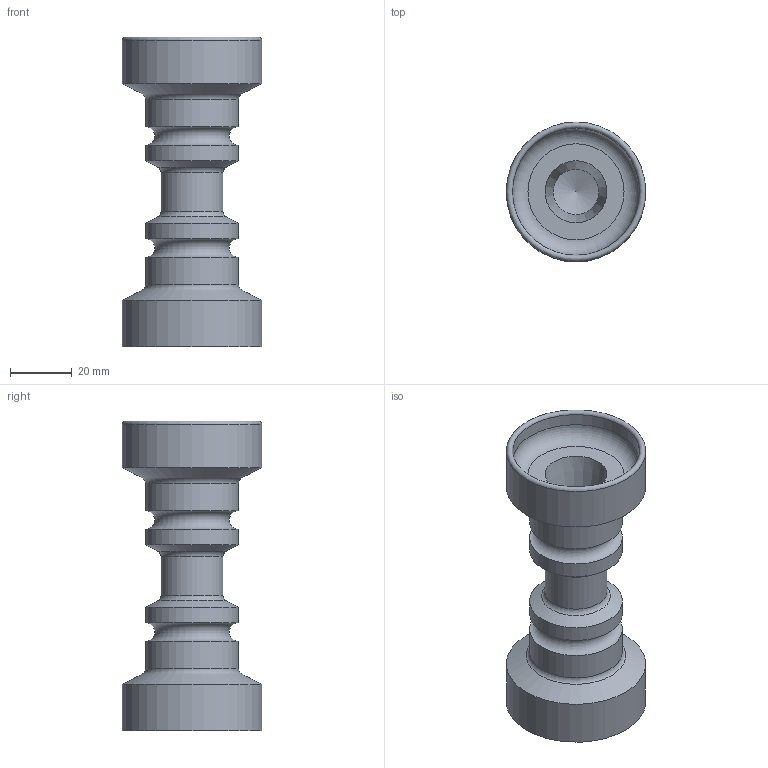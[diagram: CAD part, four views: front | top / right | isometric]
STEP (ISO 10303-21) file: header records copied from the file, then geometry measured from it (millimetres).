
FILE_DESCRIPTION((''),'2;1');
FILE_NAME('C:\Users\User\Desktop\Mastercam-harjoitukset\MCAM_LATHE_2\MCAM_LATHE_2.stp','2020-03-24T22:46:53',(''),(''),'STEP Write','Mastercam 2020 ... CNC Software, Inc.','');
FILE_SCHEMA(('AUTOMOTIVE_DESIGN'));
Length unit declared in the file: millimetre
Products named in the file (1): None
Bounding box: 45 x 45 x 100 mm (x, y, z)
Volume: 73911.6 mm3; surface area: 17147.3 mm2
Topology: 1 solids, 1 shells, 26 faces, 55 edges, 32 vertices
Faces by surface type: torus 8, cylinder 8, cone 7, plane 3
Full cylindrical faces by diameter (mm): 20 x1, 30 x4, 41 x1, 45 x2
Entity records: 571 total; most frequent: DIRECTION 106, CARTESIAN_POINT 78, AXIS2_PLACEMENT_3D 53, ORIENTED_EDGE 50, EDGE_LOOP 50, FACE_BOUND 40, STYLED_ITEM 28, ADVANCED_FACE 26
